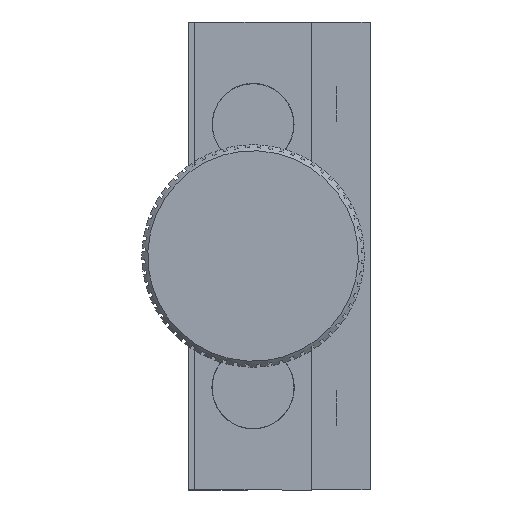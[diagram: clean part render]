
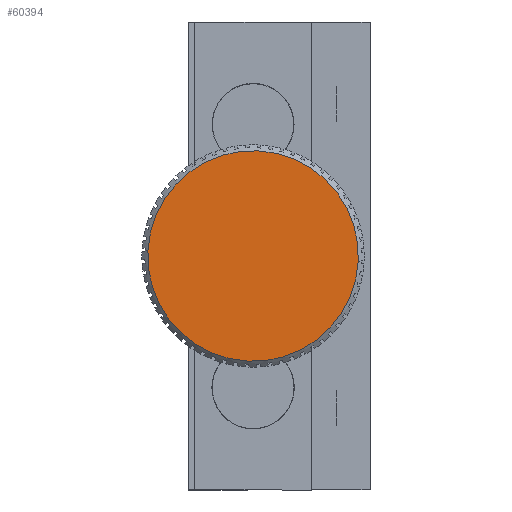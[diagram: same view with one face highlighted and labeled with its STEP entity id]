
A CAD part, left-side view. The second image highlights one B-rep face of the part: STEP entity #60394.
In plain terms, the highlighted planar face has unit normal (-1, 0, 0) as drawn and (1, 0, 0) by its records, which use the part's own axes.
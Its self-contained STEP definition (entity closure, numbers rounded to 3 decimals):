
#1322 = AXIS2_PLACEMENT_3D ( 'NONE', #21011, #35086, #24919 ) ;
#3606 = EDGE_CURVE ( 'NONE', #37208, #32140, #23267, .T. ) ;
#3769 = FACE_OUTER_BOUND ( 'NONE', #6858, .T. ) ;
#6163 = CARTESIAN_POINT ( 'NONE',  ( 81.5, 20., 0. ) ) ;
#6858 = EDGE_LOOP ( 'NONE', ( #20056, #46248 ) ) ;
#8639 = DIRECTION ( 'NONE',  ( 1., 0., 0. ) ) ;
#8978 = CIRCLE ( 'NONE', #59291, 18. ) ;
#11615 = PLANE ( 'NONE',  #35536 ) ;
#20056 = ORIENTED_EDGE ( 'NONE', *, *, #3606, .T. ) ;
#21011 = CARTESIAN_POINT ( 'NONE',  ( 81.5, 20., 0. ) ) ;
#23267 = CIRCLE ( 'NONE', #1322, 18. ) ;
#24722 = CARTESIAN_POINT ( 'NONE',  ( 81.5, 20., -18. ) ) ;
#24919 = DIRECTION ( 'NONE',  ( 0., 0., 1. ) ) ;
#25332 = DIRECTION ( 'NONE',  ( 0., 0., -1. ) ) ;
#27220 = CARTESIAN_POINT ( 'NONE',  ( 81.5, 20., 0. ) ) ;
#32140 = VERTEX_POINT ( 'NONE', #24722 ) ;
#33763 = CARTESIAN_POINT ( 'NONE',  ( 81.5, 20., 18. ) ) ;
#35086 = DIRECTION ( 'NONE',  ( 1., 0., 0. ) ) ;
#35536 = AXIS2_PLACEMENT_3D ( 'NONE', #6163, #48138, #25332 ) ;
#37208 = VERTEX_POINT ( 'NONE', #33763 ) ;
#46248 = ORIENTED_EDGE ( 'NONE', *, *, #57658, .T. ) ;
#48138 = DIRECTION ( 'NONE',  ( 1., 0., 0. ) ) ;
#54518 = DIRECTION ( 'NONE',  ( 0., 0., 1. ) ) ;
#57658 = EDGE_CURVE ( 'NONE', #32140, #37208, #8978, .T. ) ;
#59291 = AXIS2_PLACEMENT_3D ( 'NONE', #27220, #8639, #54518 ) ;
#60394 = ADVANCED_FACE ( 'NONE', ( #3769 ), #11615, .T. ) ;
